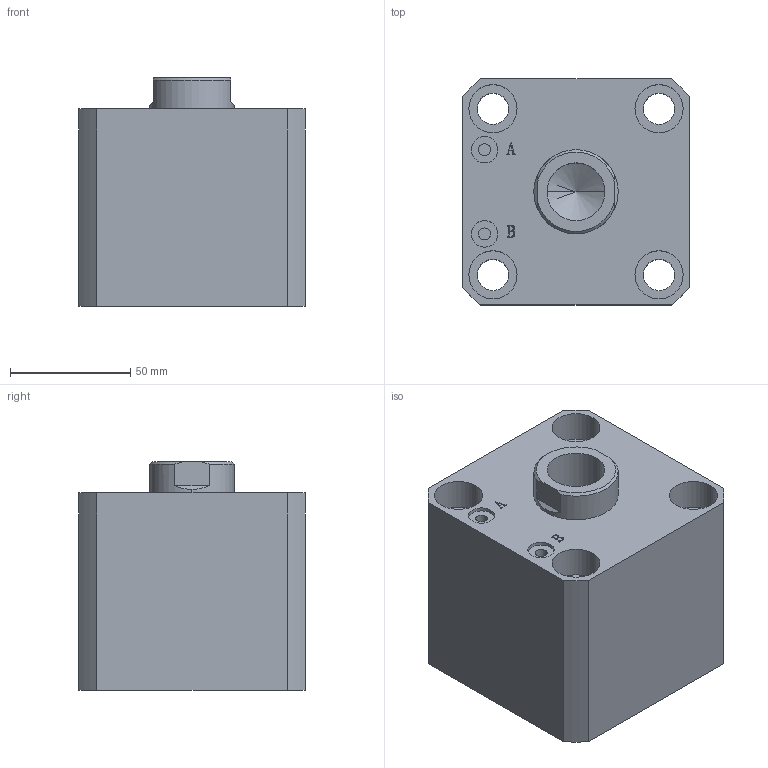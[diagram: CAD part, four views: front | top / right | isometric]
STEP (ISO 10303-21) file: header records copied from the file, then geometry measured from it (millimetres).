
FILE_DESCRIPTION (( 'STEP AP203' ), '1' );
FILE_NAME ('HTB-SDMA63-15N.STEP', '2019-10-08T01:01:39', ( '微软用户' ), ( '微软中国' ), 'SwSTEP 2.0', 'SolidWorks 2012', '' );
FILE_SCHEMA (( 'CONFIG_CONTROL_DESIGN' ));
Length unit declared in the file: millimetre
Products named in the file (3): HTB-SDMA63-15N; HTB-SDMA63-15N活塞杆; HTB-SDMA63-15掛极
Assembly tree (2 placements, depth 2):
  HTB-SDMA63-15N
    HTB-SDMA63-15掛极
    HTB-SDMA63-15N活塞杆
Bounding box: 94 x 94 x 95 mm (x, y, z)
Volume: 614321.3 mm3; surface area: 95878.8 mm2
Topology: 2 solids, 2 shells, 137 faces, 331 edges, 217 vertices
Faces by surface type: plane 65, cylinder 46, bspline 16, torus 6, cone 4
Entity records: 5070 total; most frequent: CARTESIAN_POINT 1576, ORIENTED_EDGE 658, DIRECTION 647, EDGE_CURVE 329, AXIS2_PLACEMENT_3D 232, VERTEX_POINT 217, LINE 183, VECTOR 183
